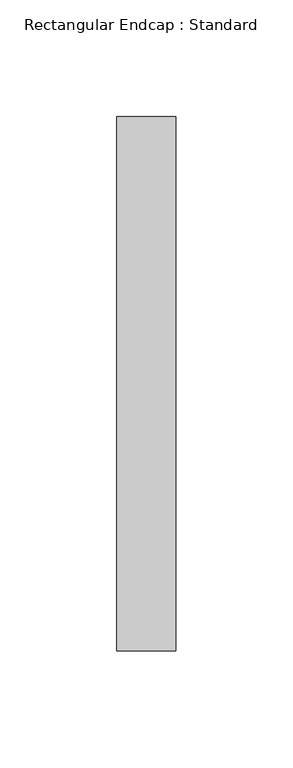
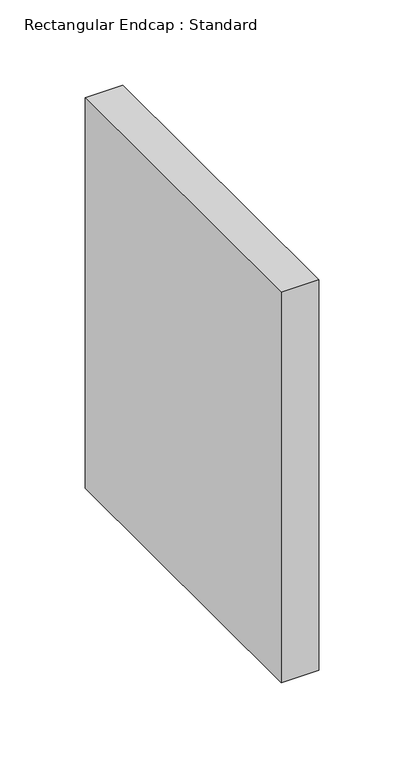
"""IFC4 building model written with IfcOpenShell, lengths in millimetres: duct fitting geometry, Rectangular Endcap : Standard."""

from ifc_helpers import new_model, si_unit, frame, origin, place, context, project, spatial, polyline, outline, extrude, source, transform, mapped, element, save


def rectangular_endcap_standard_532db283(model_context):
    return source(origin(), model_context, "Body", "SweptSolid", [
        extrude(outline(polyline([(0.0, -114.5), (0.0, 114.5), (25.4, 114.5), (25.4, -114.5), (0.0, -114.5)])), frame((0.0, 0.0, -139.5), z_axis=(0.0, 0.0, 1.0), x_axis=(1.0, 0.0, 0.0)), (0.0, 0.0, 1.0), 279.0),
    ])


if __name__ == "__main__":
    model = new_model("IFC4")
    model_context = context("Model", 3, world=origin())
    ifc_project = project(units=[si_unit("LENGTHUNIT", "METRE", prefix="MILLI")], contexts=[model_context])
    site = spatial("IfcSite", under=ifc_project)
    building = spatial("IfcBuilding", under=site)
    placement = place(None, origin())
    rectangular_endcap_standard_shape = rectangular_endcap_standard_532db283(model_context)
    element("IfcDuctFitting", 1, ObjectType="Rectangular Endcap : Standard", at=placement, inside=building, context=model_context, shape_type="MappedRepresentation", body=[
        mapped(rectangular_endcap_standard_shape, transform((0.0, 0.0, 0.0), x_axis=(1.0, 0.0, 0.0), y_axis=(0.0, 1.0, 0.0), z_axis=(0.0, 0.0, 1.0))),
    ])
    save(model, "model.ifc")
